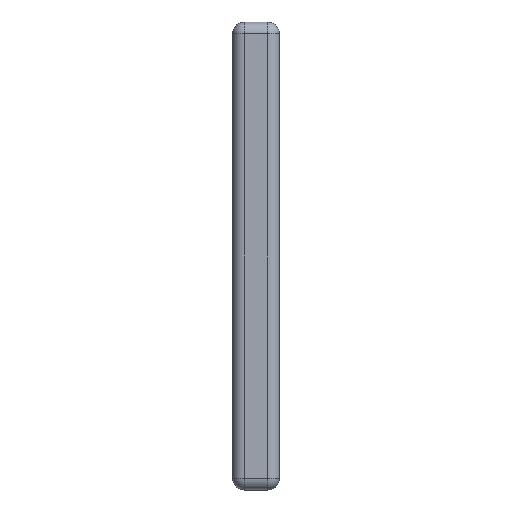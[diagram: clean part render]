
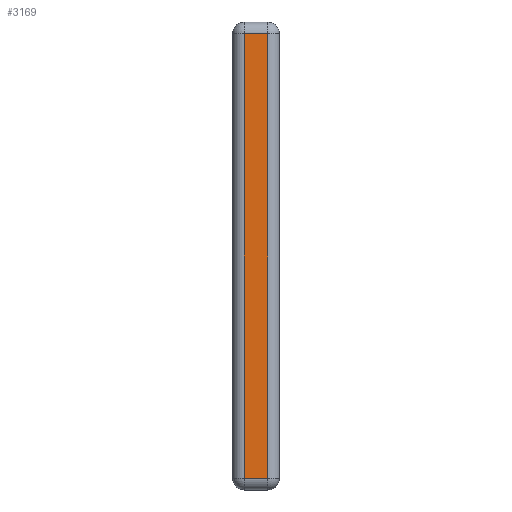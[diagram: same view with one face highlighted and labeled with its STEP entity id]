
A CAD part, front view. The second image highlights one B-rep face of the part: STEP entity #3169.
In plain terms, the highlighted planar face has unit normal (0, -1, 0).
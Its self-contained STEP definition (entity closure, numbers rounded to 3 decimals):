
#44 = CYLINDRICAL_SURFACE('',#45,0.5);
#45 = AXIS2_PLACEMENT_3D('',#46,#47,#48);
#46 = CARTESIAN_POINT('',(87.5,8.5,122.));
#47 = DIRECTION('',(0.,0.,1.));
#48 = DIRECTION('',(-1.,-0.,0.));
#1079 = VERTEX_POINT('',#1080);
#1080 = CARTESIAN_POINT('',(87.5,8.,122.5));
#1107 = EDGE_CURVE('',#1079,#1108,#1110,.T.);
#1108 = VERTEX_POINT('',#1109);
#1109 = CARTESIAN_POINT('',(87.5,8.,141.5));
#1110 = SURFACE_CURVE('',#1111,(#1115,#1122),.PCURVE_S1.);
#1111 = LINE('',#1112,#1113);
#1112 = CARTESIAN_POINT('',(87.5,8.,122.));
#1113 = VECTOR('',#1114,1.);
#1114 = DIRECTION('',(0.,0.,1.));
#1115 = PCURVE('',#44,#1116);
#1116 = DEFINITIONAL_REPRESENTATION('',(#1117),#1121);
#1117 = LINE('',#1118,#1119);
#1118 = CARTESIAN_POINT('',(1.571,0.));
#1119 = VECTOR('',#1120,1.);
#1120 = DIRECTION('',(0.,1.));
#1121 = ( GEOMETRIC_REPRESENTATION_CONTEXT(2) 
PARAMETRIC_REPRESENTATION_CONTEXT() REPRESENTATION_CONTEXT('2D SPACE',''
  ) );
#1122 = PCURVE('',#1123,#1128);
#1123 = PLANE('',#1124);
#1124 = AXIS2_PLACEMENT_3D('',#1125,#1126,#1127);
#1125 = CARTESIAN_POINT('',(87.,8.,122.));
#1126 = DIRECTION('',(-0.,1.,0.));
#1127 = DIRECTION('',(0.,0.,1.));
#1128 = DEFINITIONAL_REPRESENTATION('',(#1129),#1133);
#1129 = LINE('',#1130,#1131);
#1130 = CARTESIAN_POINT('',(0.,0.5));
#1131 = VECTOR('',#1132,1.);
#1132 = DIRECTION('',(1.,0.));
#1133 = ( GEOMETRIC_REPRESENTATION_CONTEXT(2) 
PARAMETRIC_REPRESENTATION_CONTEXT() REPRESENTATION_CONTEXT('2D SPACE',''
  ) );
#3128 = CYLINDRICAL_SURFACE('',#3129,0.5);
#3129 = AXIS2_PLACEMENT_3D('',#3130,#3131,#3132);
#3130 = CARTESIAN_POINT('',(87.,8.5,122.5));
#3131 = DIRECTION('',(1.,0.,-0.));
#3132 = DIRECTION('',(0.,-1.,0.));
#3158 = CYLINDRICAL_SURFACE('',#3159,0.5);
#3159 = AXIS2_PLACEMENT_3D('',#3160,#3161,#3162);
#3160 = CARTESIAN_POINT('',(87.,8.5,141.5));
#3161 = DIRECTION('',(1.,0.,-0.));
#3162 = DIRECTION('',(0.,-1.,0.));
#3169 = ADVANCED_FACE('',(#3170),#1123,.F.);
#3170 = FACE_BOUND('',#3171,.F.);
#3171 = EDGE_LOOP('',(#3172,#3173,#3196,#3224));
#3172 = ORIENTED_EDGE('',*,*,#1107,.T.);
#3173 = ORIENTED_EDGE('',*,*,#3174,.T.);
#3174 = EDGE_CURVE('',#1108,#3175,#3177,.T.);
#3175 = VERTEX_POINT('',#3176);
#3176 = CARTESIAN_POINT('',(88.5,8.,141.5));
#3177 = SURFACE_CURVE('',#3178,(#3182,#3189),.PCURVE_S1.);
#3178 = LINE('',#3179,#3180);
#3179 = CARTESIAN_POINT('',(87.,8.,141.5));
#3180 = VECTOR('',#3181,1.);
#3181 = DIRECTION('',(1.,0.,-0.));
#3182 = PCURVE('',#1123,#3183);
#3183 = DEFINITIONAL_REPRESENTATION('',(#3184),#3188);
#3184 = LINE('',#3185,#3186);
#3185 = CARTESIAN_POINT('',(19.5,0.));
#3186 = VECTOR('',#3187,1.);
#3187 = DIRECTION('',(0.,1.));
#3188 = ( GEOMETRIC_REPRESENTATION_CONTEXT(2) 
PARAMETRIC_REPRESENTATION_CONTEXT() REPRESENTATION_CONTEXT('2D SPACE',''
  ) );
#3189 = PCURVE('',#3158,#3190);
#3190 = DEFINITIONAL_REPRESENTATION('',(#3191),#3195);
#3191 = LINE('',#3192,#3193);
#3192 = CARTESIAN_POINT('',(-0.,0.));
#3193 = VECTOR('',#3194,1.);
#3194 = DIRECTION('',(-0.,1.));
#3195 = ( GEOMETRIC_REPRESENTATION_CONTEXT(2) 
PARAMETRIC_REPRESENTATION_CONTEXT() REPRESENTATION_CONTEXT('2D SPACE',''
  ) );
#3196 = ORIENTED_EDGE('',*,*,#3197,.F.);
#3197 = EDGE_CURVE('',#3198,#3175,#3200,.T.);
#3198 = VERTEX_POINT('',#3199);
#3199 = CARTESIAN_POINT('',(88.5,8.,122.5));
#3200 = SURFACE_CURVE('',#3201,(#3205,#3212),.PCURVE_S1.);
#3201 = LINE('',#3202,#3203);
#3202 = CARTESIAN_POINT('',(88.5,8.,122.));
#3203 = VECTOR('',#3204,1.);
#3204 = DIRECTION('',(0.,0.,1.));
#3205 = PCURVE('',#1123,#3206);
#3206 = DEFINITIONAL_REPRESENTATION('',(#3207),#3211);
#3207 = LINE('',#3208,#3209);
#3208 = CARTESIAN_POINT('',(0.,1.5));
#3209 = VECTOR('',#3210,1.);
#3210 = DIRECTION('',(1.,0.));
#3211 = ( GEOMETRIC_REPRESENTATION_CONTEXT(2) 
PARAMETRIC_REPRESENTATION_CONTEXT() REPRESENTATION_CONTEXT('2D SPACE',''
  ) );
#3212 = PCURVE('',#3213,#3218);
#3213 = CYLINDRICAL_SURFACE('',#3214,0.5);
#3214 = AXIS2_PLACEMENT_3D('',#3215,#3216,#3217);
#3215 = CARTESIAN_POINT('',(88.5,8.5,122.));
#3216 = DIRECTION('',(0.,0.,1.));
#3217 = DIRECTION('',(0.,-1.,0.));
#3218 = DEFINITIONAL_REPRESENTATION('',(#3219),#3223);
#3219 = LINE('',#3220,#3221);
#3220 = CARTESIAN_POINT('',(0.,0.));
#3221 = VECTOR('',#3222,1.);
#3222 = DIRECTION('',(0.,1.));
#3223 = ( GEOMETRIC_REPRESENTATION_CONTEXT(2) 
PARAMETRIC_REPRESENTATION_CONTEXT() REPRESENTATION_CONTEXT('2D SPACE',''
  ) );
#3224 = ORIENTED_EDGE('',*,*,#3225,.F.);
#3225 = EDGE_CURVE('',#1079,#3198,#3226,.T.);
#3226 = SURFACE_CURVE('',#3227,(#3231,#3238),.PCURVE_S1.);
#3227 = LINE('',#3228,#3229);
#3228 = CARTESIAN_POINT('',(87.,8.,122.5));
#3229 = VECTOR('',#3230,1.);
#3230 = DIRECTION('',(1.,0.,-0.));
#3231 = PCURVE('',#1123,#3232);
#3232 = DEFINITIONAL_REPRESENTATION('',(#3233),#3237);
#3233 = LINE('',#3234,#3235);
#3234 = CARTESIAN_POINT('',(0.5,0.));
#3235 = VECTOR('',#3236,1.);
#3236 = DIRECTION('',(0.,1.));
#3237 = ( GEOMETRIC_REPRESENTATION_CONTEXT(2) 
PARAMETRIC_REPRESENTATION_CONTEXT() REPRESENTATION_CONTEXT('2D SPACE',''
  ) );
#3238 = PCURVE('',#3128,#3239);
#3239 = DEFINITIONAL_REPRESENTATION('',(#3240),#3244);
#3240 = LINE('',#3241,#3242);
#3241 = CARTESIAN_POINT('',(0.,0.));
#3242 = VECTOR('',#3243,1.);
#3243 = DIRECTION('',(0.,1.));
#3244 = ( GEOMETRIC_REPRESENTATION_CONTEXT(2) 
PARAMETRIC_REPRESENTATION_CONTEXT() REPRESENTATION_CONTEXT('2D SPACE',''
  ) );
